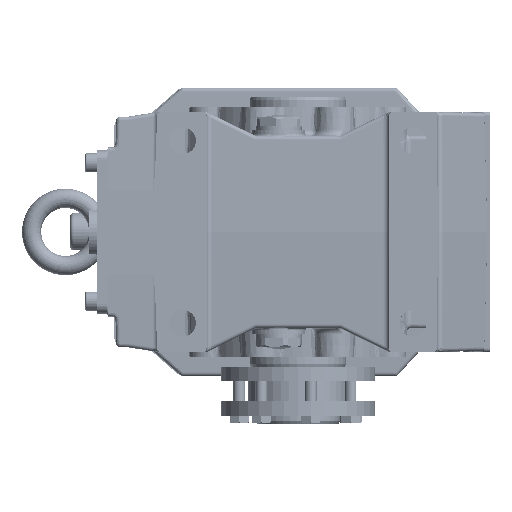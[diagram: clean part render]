
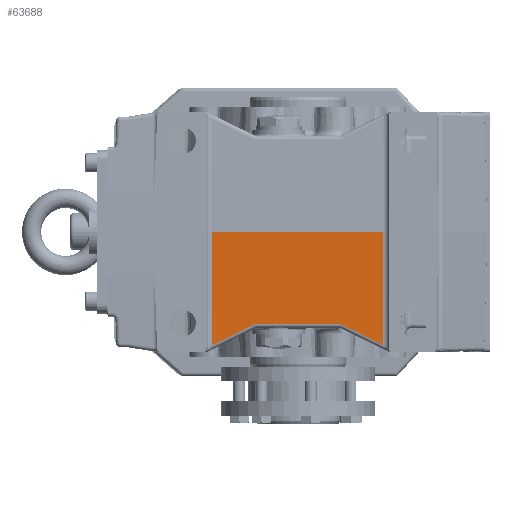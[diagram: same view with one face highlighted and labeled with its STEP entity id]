
A CAD part, left-side view. The second image highlights one B-rep face of the part: STEP entity #63688.
In plain terms, the highlighted planar face has unit normal (-1, 0, -0.026).
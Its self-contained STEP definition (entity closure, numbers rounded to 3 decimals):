
#20499=CARTESIAN_POINT('',(-88.309,-44.5,0.));
#20500=VERTEX_POINT('',#20499);
#20508=CARTESIAN_POINT('',(-86.768,-44.5,-58.854));
#20509=VERTEX_POINT('',#20508);
#20510=CARTESIAN_POINT('',(-88.309,-44.5,0.));
#20511=DIRECTION('',(0.026,0.,-1.));
#20512=VECTOR('',#20511,58.875);
#20513=LINE('',#20510,#20512);
#20514=EDGE_CURVE('',#20500,#20509,#20513,.T.);
#21004=CARTESIAN_POINT('',(-88.309,44.5,0.));
#21005=VERTEX_POINT('',#21004);
#21070=CARTESIAN_POINT('',(-86.768,44.5,-58.854));
#21071=VERTEX_POINT('',#21070);
#21079=CARTESIAN_POINT('',(-86.768,44.5,-58.854));
#21080=DIRECTION('',(-0.026,0.0,1.));
#21081=VECTOR('',#21080,58.875);
#21082=LINE('',#21079,#21081);
#21083=EDGE_CURVE('',#21071,#21005,#21082,.T.);
#63256=CARTESIAN_POINT('',(-88.309,-44.5,0.));
#63257=DIRECTION('',(0.0,1.0,0.0));
#63258=VECTOR('',#63257,89.);
#63259=LINE('',#63256,#63258);
#63260=EDGE_CURVE('',#21005,#20500,#63259,.F.);
#63513=CARTESIAN_POINT('',(-87.051,-22.464,-48.052));
#63514=VERTEX_POINT('',#63513);
#63515=CARTESIAN_POINT('',(-86.768,-44.5,-58.854));
#63516=DIRECTION('',(-0.012,0.898,0.44));
#63517=VECTOR('',#63516,24.543);
#63518=LINE('',#63515,#63517);
#63519=EDGE_CURVE('',#20509,#63514,#63518,.T.);
#63543=CARTESIAN_POINT('',(-87.051,22.464,-48.052));
#63544=VERTEX_POINT('',#63543);
#63545=CARTESIAN_POINT('',(-87.051,-22.464,-48.052));
#63546=DIRECTION('',(0.0,1.0,0.0));
#63547=VECTOR('',#63546,44.928);
#63548=LINE('',#63545,#63547);
#63549=EDGE_CURVE('',#63514,#63544,#63548,.T.);
#63576=CARTESIAN_POINT('',(-87.051,22.464,-48.052));
#63577=DIRECTION('',(0.012,0.898,-0.44));
#63578=VECTOR('',#63577,24.543);
#63579=LINE('',#63576,#63578);
#63580=EDGE_CURVE('',#63544,#21071,#63579,.T.);
#63675=CARTESIAN_POINT('',(-88.309,-97.,-0.017));
#63676=DIRECTION('',(1.,0.,0.026));
#63677=DIRECTION('',(0.026,0.,-1.));
#63678=AXIS2_PLACEMENT_3D('',#63675,#63676,#63677);
#63679=PLANE('',#63678);
#63680=ORIENTED_EDGE('',*,*,#63519,.F.);
#63681=ORIENTED_EDGE('',*,*,#20514,.F.);
#63682=ORIENTED_EDGE('',*,*,#63260,.F.);
#63683=ORIENTED_EDGE('',*,*,#21083,.F.);
#63684=ORIENTED_EDGE('',*,*,#63580,.F.);
#63685=ORIENTED_EDGE('',*,*,#63549,.F.);
#63686=EDGE_LOOP('',(#63680,#63681,#63682,#63683,#63684,#63685));
#63687=FACE_OUTER_BOUND('',#63686,.T.);
#63688=ADVANCED_FACE('',(#63687),#63679,.F.);
